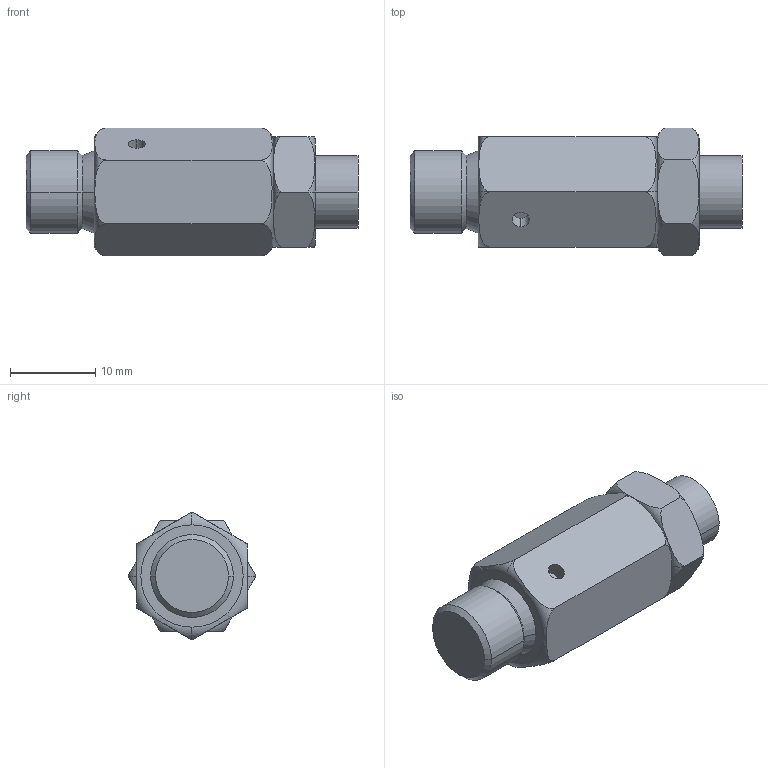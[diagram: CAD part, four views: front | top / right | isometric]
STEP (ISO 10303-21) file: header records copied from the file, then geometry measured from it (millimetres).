
FILE_DESCRIPTION((''),'2;1');
FILE_NAME('0821201001','2015-03-23T',('mla1hc'),(''),'PRO/ENGINEER BY PARAMETRIC TECHNOLOGY CORPORATION, 2011490','PRO/ENGINEER BY PARAMETRIC TECHNOLOGY CORPORATION, 2011490','');
FILE_SCHEMA(('AUTOMOTIVE_DESIGN_CC2 { 1 2 10303 214 -1 1 5 2 }'));
Length unit declared in the file: millimetre
Products named in the file (1): 0821201001
Bounding box: 39 x 15.01 x 15.01 mm (x, y, z)
Volume: 4644 mm3; surface area: 1875.1 mm2
Topology: 1 solids, 1 shells, 37 faces, 82 edges, 50 vertices
Faces by surface type: plane 17, torus 8, cylinder 6, cone 6
Entity records: 1727 total; most frequent: CARTESIAN_POINT 917, DIRECTION 166, ORIENTED_EDGE 164, EDGE_CURVE 82, AXIS2_PLACEMENT_3D 71, VERTEX_POINT 50, EDGE_LOOP 40, FACE_OUTER_BOUND 37
